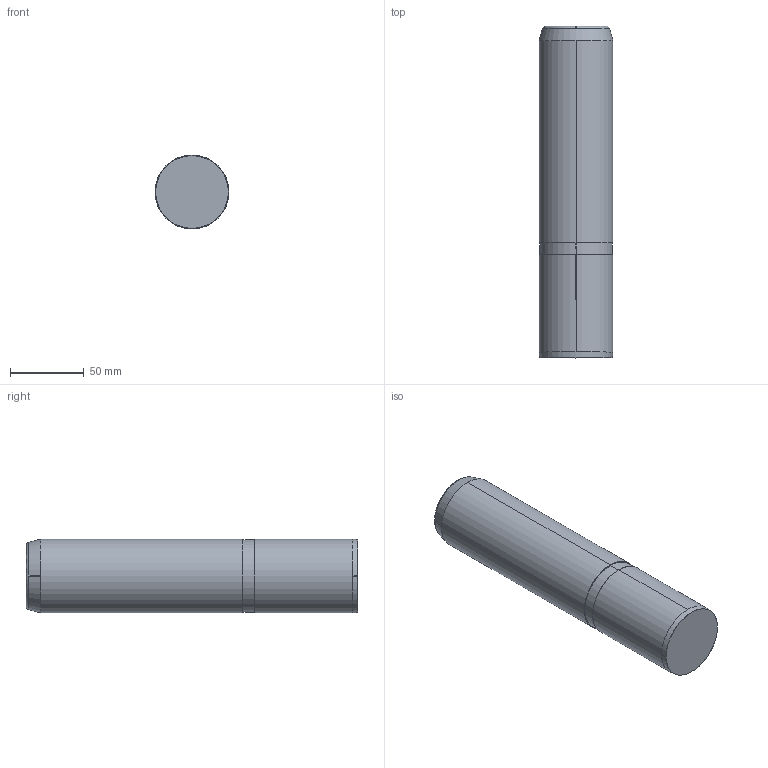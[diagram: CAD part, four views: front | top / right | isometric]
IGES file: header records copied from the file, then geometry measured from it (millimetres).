
Start section: SolidWorks IGES file using analytic representation for surfaces
Global section: file name: C:\Users\Dell\Desktop\deltakont\hatalýlar\D13.02\Ø50\D13.02_50225.igs; native system: SolidWorks 2010; preprocessor: SolidWorks 2010; author: Dell; date: 111225.191334; units: millimetre
Bounding box: 50 x 225 x 50 mm (x, y, z)
Surface area: 38849.2 mm2 (no closed solid volume)
Topology: 0 solids, 0 shells, 16 faces, 436 edges, 436 vertices
Faces by surface type: revolution 10, bspline 6
